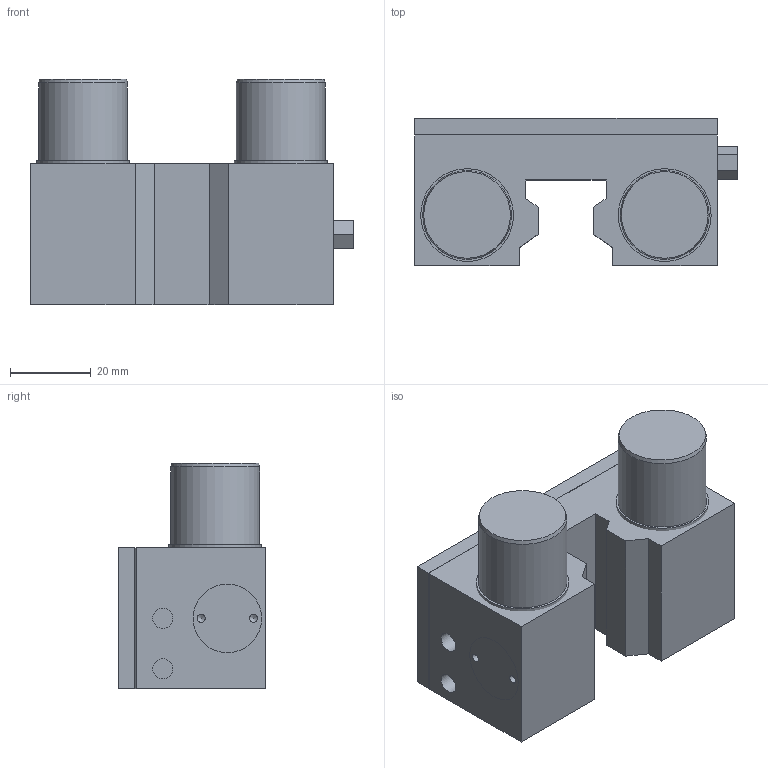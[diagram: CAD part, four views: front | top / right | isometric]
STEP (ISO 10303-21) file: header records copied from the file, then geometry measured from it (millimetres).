
FILE_DESCRIPTION((''),'2;1');
FILE_NAME('D:\Autodesk_Vault\Projekte\PROE_Konvertierung\MKS2505AK PMK25-4.stp','2008-05-27T12:24:39',('Wessling'),(''),'Autodesk Inventor 2008','Autodesk Inventor 2008','');
FILE_SCHEMA(('AUTOMOTIVE_DESIGN { 1 0 10303 214 1 1 1 1 }'));
Length unit declared in the file: millimetre
Products named in the file (6): MKS2505AK PMK25-4; Gehaeuse_MKS 2505AK 36 40; Luftfilter 5 7; Deckel MKS 22; Einstellschraube 17; PMK25-4
Assembly tree (7 placements, depth 2):
  MKS2505AK PMK25-4
    Gehaeuse_MKS 2505AK 36 40
    Luftfilter 5 7
    Deckel MKS 22  x2
    Einstellschraube 17  x2
    PMK25-4
Bounding box: 80 x 36.5 x 56 mm (x, y, z)
Volume: 84733.7 mm3; surface area: 30157.5 mm2
Topology: 7 solids, 7 shells, 110 faces, 234 edges, 156 vertices
Faces by surface type: plane 60, cylinder 34, cone 12, bspline 2, torus 2
Full cylindrical faces by diameter (mm): 2 x4, 5 x8, 6 x8, 16 x2, 17 x4, 18 x2, 22 x4, 23 x2
Entity records: 2372 total; most frequent: DIRECTION 404, CARTESIAN_POINT 403, ORIENTED_EDGE 284, AXIS2_PLACEMENT_3D 160, EDGE_LOOP 150, EDGE_CURVE 142, VERTEX_POINT 114, FACE_OUTER_BOUND 90
